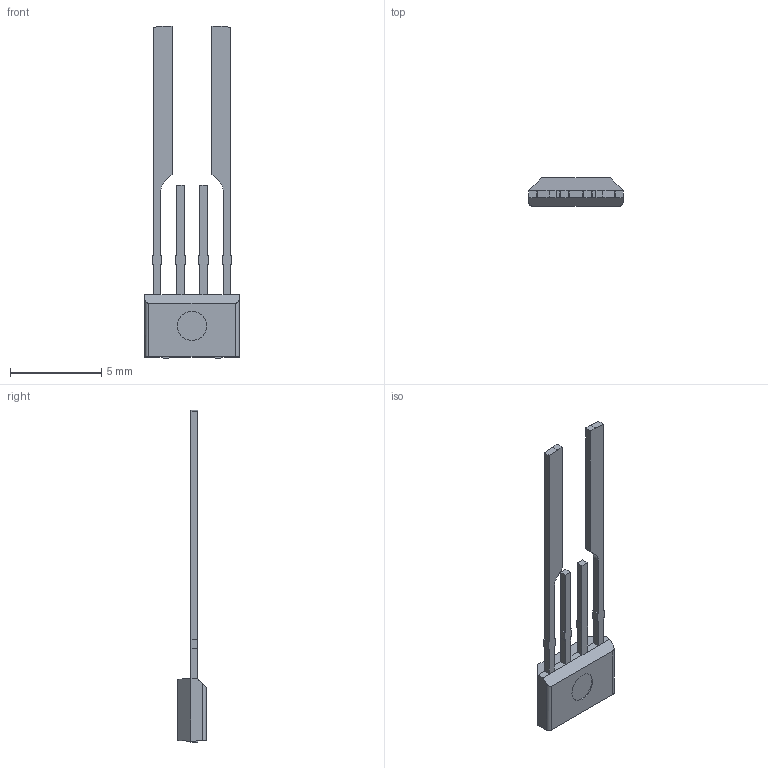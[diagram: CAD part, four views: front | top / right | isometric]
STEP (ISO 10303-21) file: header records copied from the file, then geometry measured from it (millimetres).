
FILE_DESCRIPTION (( 'STEP AP214' ), '1' );
FILE_NAME ('KN.STEP', '2016-11-09T16:53:17', ( '' ), ( '' ), 'SwSTEP 2.0', 'SolidWorks 2015', '' );
FILE_SCHEMA (( 'AUTOMOTIVE_DESIGN' ));
Length unit declared in the file: millimetre
Products named in the file (2): KN; KN Mold
Assembly tree (1 placements, depth 2):
  KN
    KN Mold
Bounding box: 5.21 x 1.55 x 18.21 mm (x, y, z)
Volume: 35.4 mm3; surface area: 143.3 mm2
Topology: 1 solids, 1 shells, 92 faces, 243 edges, 154 vertices
Faces by surface type: plane 86, cylinder 6
Entity records: 2829 total; most frequent: CARTESIAN_POINT 505, ORIENTED_EDGE 486, DIRECTION 439, EDGE_CURVE 243, VECTOR 231, LINE 231, VERTEX_POINT 154, AXIS2_PLACEMENT_3D 104
